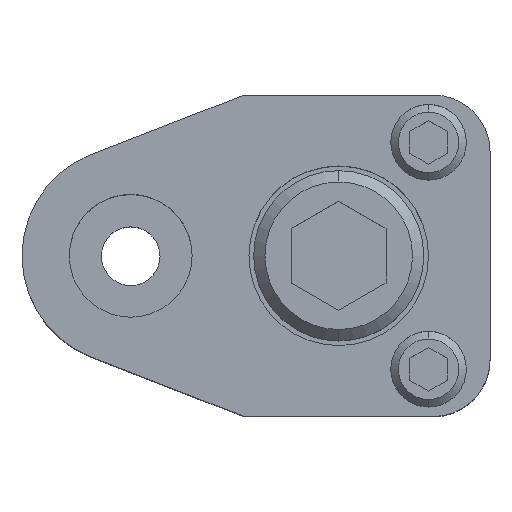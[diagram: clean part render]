
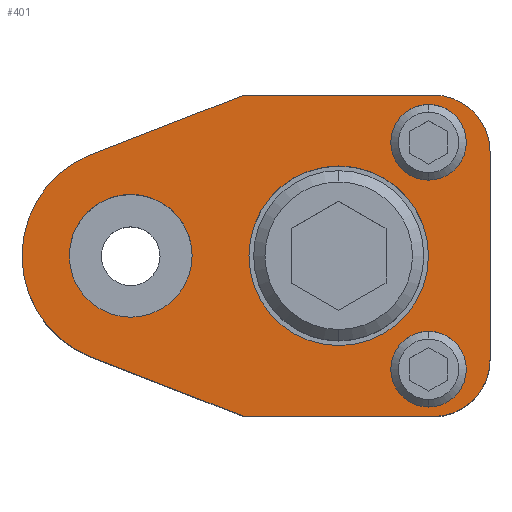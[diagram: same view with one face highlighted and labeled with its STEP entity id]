
A CAD part, top view. The second image highlights one B-rep face of the part: STEP entity #401.
In plain terms, the highlighted planar face has unit normal (0, 0, 1).
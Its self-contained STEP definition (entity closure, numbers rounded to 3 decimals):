
#191=FACE_BOUND('',#703,.T.);
#192=FACE_BOUND('',#704,.T.);
#193=FACE_BOUND('',#705,.T.);
#194=FACE_BOUND('',#706,.T.);
#195=FACE_BOUND('',#707,.T.);
#247=CIRCLE('',#2239,6.);
#249=CIRCLE('',#2244,11.5);
#252=CIRCLE('',#2250,6.);
#254=CIRCLE('',#2253,4.);
#256=CIRCLE('',#2256,4.);
#258=CIRCLE('',#2259,4.);
#260=CIRCLE('',#2262,4.);
#265=CIRCLE('',#2270,9.5);
#266=CIRCLE('',#2271,9.5);
#267=CIRCLE('',#2272,6.5);
#268=CIRCLE('',#2273,6.5);
#401=ADVANCED_FACE('',(#191,#192,#193,#194,#195),#510,.T.);
#510=PLANE('',#2274);
#703=EDGE_LOOP('',(#999,#1000,#1001,#1002,#1003,#1004,#1005,#1006));
#704=EDGE_LOOP('',(#1007,#1008));
#705=EDGE_LOOP('',(#1009,#1010));
#706=EDGE_LOOP('',(#1011,#1012));
#707=EDGE_LOOP('',(#1013,#1014));
#999=ORIENTED_EDGE('',*,*,#1646,.T.);
#1000=ORIENTED_EDGE('',*,*,#1650,.T.);
#1001=ORIENTED_EDGE('',*,*,#1653,.T.);
#1002=ORIENTED_EDGE('',*,*,#1656,.T.);
#1003=ORIENTED_EDGE('',*,*,#1659,.T.);
#1004=ORIENTED_EDGE('',*,*,#1662,.T.);
#1005=ORIENTED_EDGE('',*,*,#1665,.T.);
#1006=ORIENTED_EDGE('',*,*,#1668,.T.);
#1007=ORIENTED_EDGE('',*,*,#1687,.F.);
#1008=ORIENTED_EDGE('',*,*,#1688,.F.);
#1009=ORIENTED_EDGE('',*,*,#1680,.F.);
#1010=ORIENTED_EDGE('',*,*,#1677,.F.);
#1011=ORIENTED_EDGE('',*,*,#1674,.F.);
#1012=ORIENTED_EDGE('',*,*,#1671,.F.);
#1013=ORIENTED_EDGE('',*,*,#1689,.T.);
#1014=ORIENTED_EDGE('',*,*,#1690,.T.);
#1436=VERTEX_POINT('',#3259);
#1437=VERTEX_POINT('',#3261);
#1440=VERTEX_POINT('',#3268);
#1442=VERTEX_POINT('',#3274);
#1444=VERTEX_POINT('',#3280);
#1446=VERTEX_POINT('',#3286);
#1448=VERTEX_POINT('',#3292);
#1450=VERTEX_POINT('',#3298);
#1453=VERTEX_POINT('',#3309);
#1454=VERTEX_POINT('',#3311);
#1457=VERTEX_POINT('',#3321);
#1458=VERTEX_POINT('',#3323);
#1463=VERTEX_POINT('',#3342);
#1464=VERTEX_POINT('',#3343);
#1465=VERTEX_POINT('',#3346);
#1466=VERTEX_POINT('',#3347);
#1646=EDGE_CURVE('',#1437,#1436,#1920,.T.);
#1650=EDGE_CURVE('',#1436,#1440,#247,.T.);
#1653=EDGE_CURVE('',#1440,#1442,#1925,.T.);
#1656=EDGE_CURVE('',#1442,#1444,#1928,.T.);
#1659=EDGE_CURVE('',#1444,#1446,#249,.T.);
#1662=EDGE_CURVE('',#1446,#1448,#1932,.T.);
#1665=EDGE_CURVE('',#1448,#1450,#1935,.T.);
#1668=EDGE_CURVE('',#1450,#1437,#252,.T.);
#1671=EDGE_CURVE('',#1453,#1454,#254,.T.);
#1674=EDGE_CURVE('',#1454,#1453,#256,.T.);
#1677=EDGE_CURVE('',#1457,#1458,#258,.T.);
#1680=EDGE_CURVE('',#1458,#1457,#260,.T.);
#1687=EDGE_CURVE('',#1463,#1464,#265,.T.);
#1688=EDGE_CURVE('',#1464,#1463,#266,.T.);
#1689=EDGE_CURVE('',#1465,#1466,#267,.T.);
#1690=EDGE_CURVE('',#1466,#1465,#268,.T.);
#1920=LINE('',#3260,#2080);
#1925=LINE('',#3275,#2085);
#1928=LINE('',#3281,#2088);
#1932=LINE('',#3293,#2092);
#1935=LINE('',#3299,#2095);
#2080=VECTOR('',#2591,1.);
#2085=VECTOR('',#2604,1.);
#2088=VECTOR('',#2609,1.);
#2092=VECTOR('',#2621,1.);
#2095=VECTOR('',#2626,1.);
#2239=AXIS2_PLACEMENT_3D('',#3269,#2597,#2598);
#2244=AXIS2_PLACEMENT_3D('',#3287,#2614,#2615);
#2250=AXIS2_PLACEMENT_3D('',#3303,#2632,#2633);
#2253=AXIS2_PLACEMENT_3D('',#3310,#2639,#2640);
#2256=AXIS2_PLACEMENT_3D('',#3315,#2646,#2647);
#2259=AXIS2_PLACEMENT_3D('',#3322,#2653,#2654);
#2262=AXIS2_PLACEMENT_3D('',#3327,#2660,#2661);
#2270=AXIS2_PLACEMENT_3D('',#3341,#2678,#2679);
#2271=AXIS2_PLACEMENT_3D('',#3344,#2680,#2681);
#2272=AXIS2_PLACEMENT_3D('',#3345,#2682,#2683);
#2273=AXIS2_PLACEMENT_3D('',#3348,#2684,#2685);
#2274=AXIS2_PLACEMENT_3D('',#3349,#2686,#2687);
#2591=DIRECTION('',(0.,1.,0.));
#2597=DIRECTION('',(0.,0.,1.));
#2598=DIRECTION('',(-0.707,-0.707,0.));
#2604=DIRECTION('',(-1.,0.,0.));
#2609=DIRECTION('',(-0.932,-0.362,0.));
#2614=DIRECTION('',(0.,0.,1.));
#2615=DIRECTION('',(0.,1.,0.));
#2621=DIRECTION('',(0.932,-0.362,0.));
#2626=DIRECTION('',(1.,0.,0.));
#2632=DIRECTION('',(0.,0.,1.));
#2633=DIRECTION('',(-0.707,0.707,0.));
#2639=DIRECTION('',(0.,0.,1.));
#2640=DIRECTION('',(-1.,0.,0.));
#2646=DIRECTION('',(0.,0.,1.));
#2647=DIRECTION('',(1.,0.,0.));
#2653=DIRECTION('',(0.,0.,1.));
#2654=DIRECTION('',(-1.,0.,0.));
#2660=DIRECTION('',(0.,0.,1.));
#2661=DIRECTION('',(1.,0.,0.));
#2678=DIRECTION('',(0.,0.,1.));
#2679=DIRECTION('',(1.,0.,0.));
#2680=DIRECTION('',(0.,0.,1.));
#2681=DIRECTION('',(-1.,0.,0.));
#2682=DIRECTION('',(0.,0.,-1.));
#2683=DIRECTION('',(-1.,0.,0.));
#2684=DIRECTION('',(0.,0.,-1.));
#2685=DIRECTION('',(1.,0.,0.));
#2686=DIRECTION('',(0.,0.,1.));
#2687=DIRECTION('',(0.,-1.,0.));
#3259=CARTESIAN_POINT('',(38.,11.,30.));
#3260=CARTESIAN_POINT('',(38.,-11.,30.));
#3261=CARTESIAN_POINT('',(38.,-11.,30.));
#3268=CARTESIAN_POINT('',(32.,17.,30.));
#3269=CARTESIAN_POINT('',(32.,11.,30.));
#3274=CARTESIAN_POINT('',(12.,17.,30.));
#3275=CARTESIAN_POINT('',(12.,17.,30.));
#3280=CARTESIAN_POINT('',(-4.165,10.719,30.));
#3281=CARTESIAN_POINT('',(12.,17.,30.));
#3286=CARTESIAN_POINT('',(-4.165,-10.719,30.));
#3287=CARTESIAN_POINT('',(0.,0.,30.));
#3292=CARTESIAN_POINT('',(12.,-17.,30.));
#3293=CARTESIAN_POINT('',(12.,-17.,30.));
#3298=CARTESIAN_POINT('',(32.,-17.,30.));
#3299=CARTESIAN_POINT('',(12.,-17.,30.));
#3303=CARTESIAN_POINT('',(32.,-11.,30.));
#3309=CARTESIAN_POINT('',(31.5,8.,30.));
#3310=CARTESIAN_POINT('',(31.5,12.,30.));
#3311=CARTESIAN_POINT('',(31.5,16.,30.));
#3315=CARTESIAN_POINT('',(31.5,12.,30.));
#3321=CARTESIAN_POINT('',(31.5,-16.,30.));
#3322=CARTESIAN_POINT('',(31.5,-12.,30.));
#3323=CARTESIAN_POINT('',(31.5,-8.,30.));
#3327=CARTESIAN_POINT('',(31.5,-12.,30.));
#3341=CARTESIAN_POINT('',(22.,0.,30.));
#3342=CARTESIAN_POINT('',(22.,9.5,30.));
#3343=CARTESIAN_POINT('',(22.,-9.5,30.));
#3344=CARTESIAN_POINT('',(22.,0.,30.));
#3345=CARTESIAN_POINT('',(0.,0.,30.));
#3346=CARTESIAN_POINT('',(0.,6.5,30.));
#3347=CARTESIAN_POINT('',(0.,-6.5,30.));
#3348=CARTESIAN_POINT('',(0.,0.,30.));
#3349=CARTESIAN_POINT('',(38.,-11.,30.));
